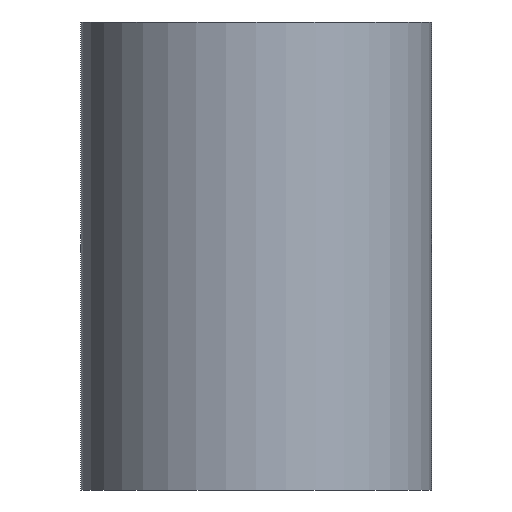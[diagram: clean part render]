
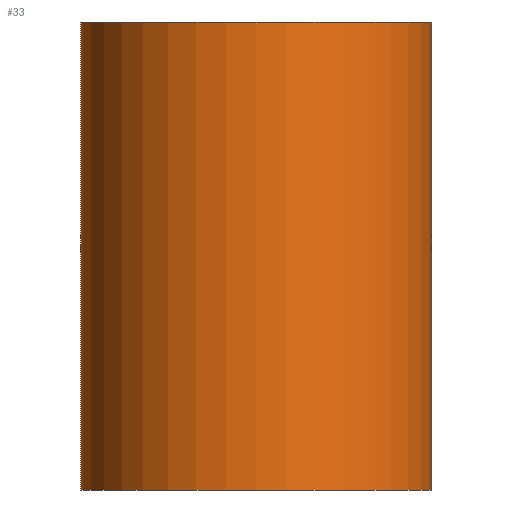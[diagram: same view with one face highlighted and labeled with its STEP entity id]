
A CAD part, front view. The second image highlights one B-rep face of the part: STEP entity #33.
In plain terms, the highlighted cylindrical face has radius 8.25 mm (diameter 16.5 mm), a partial arc.
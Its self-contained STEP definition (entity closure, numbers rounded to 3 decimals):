
#17 = CARTESIAN_POINT ( 'NONE',  ( 0., 0., 0. ) ) ;
#20 = DIRECTION ( 'NONE',  ( 1., 0., 0. ) ) ;
#27 = CARTESIAN_POINT ( 'NONE',  ( -8.25, 0., 22. ) ) ;
#33 = ADVANCED_FACE ( 'NONE', ( #563 ), #484, .T. ) ;
#43 = AXIS2_PLACEMENT_3D ( 'NONE', #17, #367, #20 ) ;
#44 = CARTESIAN_POINT ( 'NONE',  ( 8.25, 0., 22. ) ) ;
#105 = DIRECTION ( 'NONE',  ( -1., 0., 0. ) ) ;
#106 = VERTEX_POINT ( 'NONE', #519 ) ;
#113 = AXIS2_PLACEMENT_3D ( 'NONE', #232, #453, #400 ) ;
#153 = DIRECTION ( 'NONE',  ( 0., 0., -1. ) ) ;
#158 = DIRECTION ( 'NONE',  ( 0., 0., -1. ) ) ;
#166 = EDGE_LOOP ( 'NONE', ( #337, #289, #603, #253 ) ) ;
#200 = EDGE_CURVE ( 'NONE', #106, #658, #656, .T. ) ;
#232 = CARTESIAN_POINT ( 'NONE',  ( 0., 0., 22. ) ) ;
#250 = LINE ( 'NONE', #27, #324 ) ;
#253 = ORIENTED_EDGE ( 'NONE', *, *, #325, .T. ) ;
#289 = ORIENTED_EDGE ( 'NONE', *, *, #200, .F. ) ;
#312 = VERTEX_POINT ( 'NONE', #529 ) ;
#324 = VECTOR ( 'NONE', #412, 1000. ) ;
#325 = EDGE_CURVE ( 'NONE', #312, #608, #362, .T. ) ;
#327 = CARTESIAN_POINT ( 'NONE',  ( 0., 0., 22. ) ) ;
#337 = ORIENTED_EDGE ( 'NONE', *, *, #447, .F. ) ;
#355 = EDGE_CURVE ( 'NONE', #106, #312, #250, .T. ) ;
#362 = CIRCLE ( 'NONE', #43, 8.25 ) ;
#367 = DIRECTION ( 'NONE',  ( 0., 0., 1. ) ) ;
#389 = CARTESIAN_POINT ( 'NONE',  ( 8.25, 0., 0. ) ) ;
#393 = CARTESIAN_POINT ( 'NONE',  ( 8.25, 0., 22. ) ) ;
#400 = DIRECTION ( 'NONE',  ( 1., 0., 0. ) ) ;
#412 = DIRECTION ( 'NONE',  ( 0., 0., -1. ) ) ;
#447 = EDGE_CURVE ( 'NONE', #658, #608, #720, .T. ) ;
#453 = DIRECTION ( 'NONE',  ( 0., 0., 1. ) ) ;
#484 = CYLINDRICAL_SURFACE ( 'NONE', #682, 8.25 ) ;
#492 = VECTOR ( 'NONE', #153, 1000. ) ;
#519 = CARTESIAN_POINT ( 'NONE',  ( -8.25, 0., 22. ) ) ;
#529 = CARTESIAN_POINT ( 'NONE',  ( -8.25, 0., 0. ) ) ;
#563 = FACE_OUTER_BOUND ( 'NONE', #166, .T. ) ;
#603 = ORIENTED_EDGE ( 'NONE', *, *, #355, .T. ) ;
#608 = VERTEX_POINT ( 'NONE', #389 ) ;
#656 = CIRCLE ( 'NONE', #113, 8.25 ) ;
#658 = VERTEX_POINT ( 'NONE', #393 ) ;
#682 = AXIS2_PLACEMENT_3D ( 'NONE', #327, #158, #105 ) ;
#720 = LINE ( 'NONE', #44, #492 ) ;
